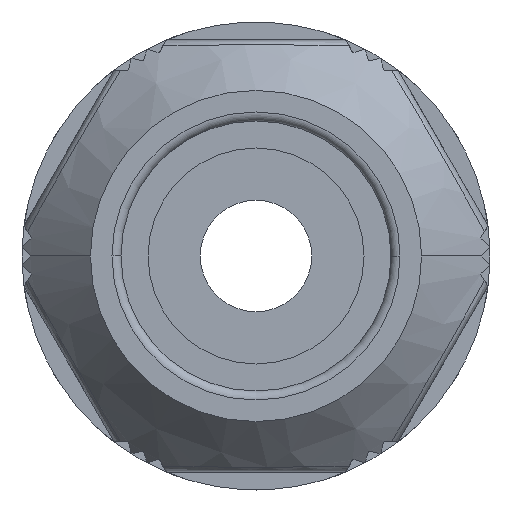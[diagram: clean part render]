
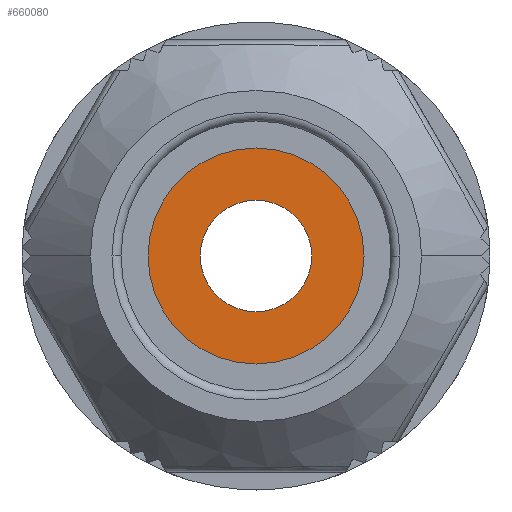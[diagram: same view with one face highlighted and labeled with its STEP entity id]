
A CAD part, left-side view. The second image highlights one B-rep face of the part: STEP entity #660080.
In plain terms, the highlighted planar face has unit normal (-1, 0, 0) as drawn and (0, 0, -1) by its records, which use the part's own axes.
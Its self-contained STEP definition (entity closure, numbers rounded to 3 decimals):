
#659730=CARTESIAN_POINT('',(0.,0.,0.));
#659740=DIRECTION('',(0.,0.,1.));
#659750=DIRECTION('',(1.,0.,0.));
#659760=AXIS2_PLACEMENT_3D('',#659730,#659740,#659750);
#659770=PLANE('',#659760);
#659780=CARTESIAN_POINT('',(0.,0.,0.));
#659790=DIRECTION('',(0.,0.,1.));
#659800=DIRECTION('',(1.,0.,0.));
#659810=AXIS2_PLACEMENT_3D('',#659780,#659790,#659800);
#659820=CIRCLE('',#659810,6.);
#659830=CARTESIAN_POINT('',(6.,0.,0.));
#659840=VERTEX_POINT('',#659830);
#659850=CARTESIAN_POINT('',(-6.,0.,0.));
#659860=VERTEX_POINT('',#659850);
#659870=EDGE_CURVE('',#659840,#659860,#659820,.T.);
#659880=ORIENTED_EDGE('',*,*,#659870,.F.);
#659890=EDGE_CURVE('',#659860,#659840,#659820,.T.);
#659900=ORIENTED_EDGE('',*,*,#659890,.F.);
#659910=EDGE_LOOP('',(#659900,#659880));
#659920=FACE_OUTER_BOUND('',#659910,.T.);
#659930=CARTESIAN_POINT('',(0.,0.,0.));
#659940=DIRECTION('',(0.,0.,1.));
#659950=DIRECTION('',(1.,0.,0.));
#659960=AXIS2_PLACEMENT_3D('',#659930,#659940,#659950);
#659970=CIRCLE('',#659960,3.1);
#659980=CARTESIAN_POINT('',(3.1,0.,0.));
#659990=VERTEX_POINT('',#659980);
#660000=CARTESIAN_POINT('',(-3.1,0.,0.));
#660010=VERTEX_POINT('',#660000);
#660020=EDGE_CURVE('',#659990,#660010,#659970,.T.);
#660030=ORIENTED_EDGE('',*,*,#660020,.T.);
#660040=EDGE_CURVE('',#660010,#659990,#659970,.T.);
#660050=ORIENTED_EDGE('',*,*,#660040,.T.);
#660060=EDGE_LOOP('',(#660050,#660030));
#660070=FACE_BOUND('',#660060,.T.);
#660080=ADVANCED_FACE('',(#659920,#660070),#659770,.F.);
